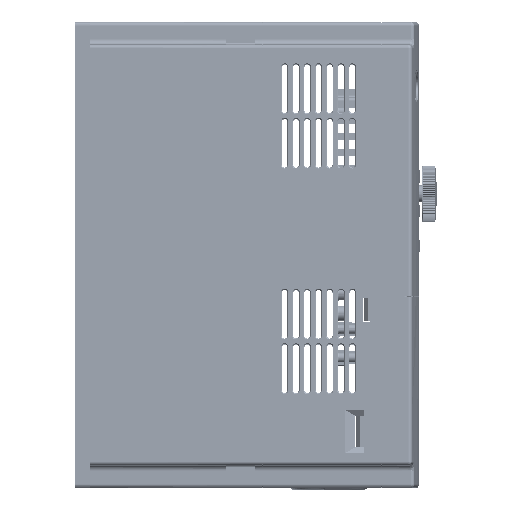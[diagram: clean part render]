
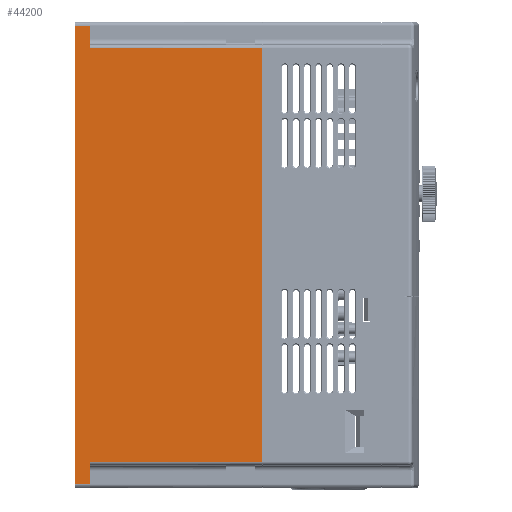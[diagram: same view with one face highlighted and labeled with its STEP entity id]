
A CAD part, top view. The second image highlights one B-rep face of the part: STEP entity #44200.
In plain terms, the highlighted planar face has unit normal (0, 0, 1).
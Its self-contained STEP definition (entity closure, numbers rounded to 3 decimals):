
#192=DIRECTION('',(0.,-1.,0.));
#193=VECTOR('',#192,244.);
#194=CARTESIAN_POINT('',(0.,246.,80.));
#195=LINE('',#194,#193);
#1109=DIRECTION('',(0.,-1.,0.));
#1110=VECTOR('',#1109,12.);
#1111=CARTESIAN_POINT('',(7.8,14.,80.));
#1112=LINE('',#1111,#1110);
#1116=DIRECTION('',(-1.,0.,0.));
#1117=VECTOR('',#1116,7.8);
#1118=CARTESIAN_POINT('',(7.8,2.,80.));
#1119=LINE('',#1118,#1117);
#1123=DIRECTION('',(-1.,0.,0.));
#1124=VECTOR('',#1123,7.8);
#1125=CARTESIAN_POINT('',(7.8,246.,80.));
#1126=LINE('',#1125,#1124);
#1130=DIRECTION('',(0.,-1.,0.));
#1131=VECTOR('',#1130,12.);
#1132=CARTESIAN_POINT('',(7.8,246.,80.));
#1133=LINE('',#1132,#1131);
#1137=DIRECTION('',(0.,-1.,0.));
#1138=VECTOR('',#1137,220.);
#1139=CARTESIAN_POINT('',(99.6,234.,80.));
#1140=LINE('',#1139,#1138);
#25720=DIRECTION('',(1.,0.,0.));
#25721=VECTOR('',#25720,91.8);
#25722=CARTESIAN_POINT('',(7.8,14.,80.));
#25723=LINE('',#25722,#25721);
#26188=DIRECTION('',(-1.,0.,0.));
#26189=VECTOR('',#26188,91.8);
#26190=CARTESIAN_POINT('',(99.6,234.,80.));
#26191=LINE('',#26190,#26189);
#39772=CARTESIAN_POINT('',(99.6,234.,80.));
#39773=CARTESIAN_POINT('',(99.6,14.,80.));
#39774=VERTEX_POINT('',#39772);
#39775=VERTEX_POINT('',#39773);
#40204=CARTESIAN_POINT('',(0.,246.,80.));
#40206=VERTEX_POINT('',#40204);
#40213=CARTESIAN_POINT('',(0.,2.,80.));
#40215=VERTEX_POINT('',#40213);
#42888=CARTESIAN_POINT('',(7.8,2.,80.));
#42889=VERTEX_POINT('',#42888);
#42892=CARTESIAN_POINT('',(7.8,14.,80.));
#42893=VERTEX_POINT('',#42892);
#42934=CARTESIAN_POINT('',(7.8,246.,80.));
#42935=CARTESIAN_POINT('',(7.8,234.,80.));
#42936=VERTEX_POINT('',#42934);
#42937=VERTEX_POINT('',#42935);
#44179=CARTESIAN_POINT('',(0.,248.,80.));
#44180=DIRECTION('',(0.,0.,1.));
#44181=DIRECTION('',(0.,-1.,0.));
#44182=AXIS2_PLACEMENT_3D('',#44179,#44180,#44181);
#44183=PLANE('',#44182);
#44185=ORIENTED_EDGE('',*,*,#44184,.T.);
#44187=ORIENTED_EDGE('',*,*,#44186,.T.);
#44188=ORIENTED_EDGE('',*,*,#43693,.F.);
#44190=ORIENTED_EDGE('',*,*,#44189,.F.);
#44191=ORIENTED_EDGE('',*,*,#44169,.T.);
#44193=ORIENTED_EDGE('',*,*,#44192,.F.);
#44195=ORIENTED_EDGE('',*,*,#44194,.T.);
#44197=ORIENTED_EDGE('',*,*,#44196,.F.);
#44198=EDGE_LOOP('',(#44185,#44187,#44188,#44190,#44191,#44193,#44195,#44197));
#44199=FACE_OUTER_BOUND('',#44198,.F.);
#44200=ADVANCED_FACE('',(#44199),#44183,.T.);
#43693=EDGE_CURVE('',#40206,#40215,#195,.T.);
#44169=EDGE_CURVE('',#42936,#42937,#1133,.T.);
#44184=EDGE_CURVE('',#42893,#42889,#1112,.T.);
#44186=EDGE_CURVE('',#42889,#40215,#1119,.T.);
#44189=EDGE_CURVE('',#42936,#40206,#1126,.T.);
#44192=EDGE_CURVE('',#39774,#42937,#26191,.T.);
#44194=EDGE_CURVE('',#39774,#39775,#1140,.T.);
#44196=EDGE_CURVE('',#42893,#39775,#25723,.T.);
